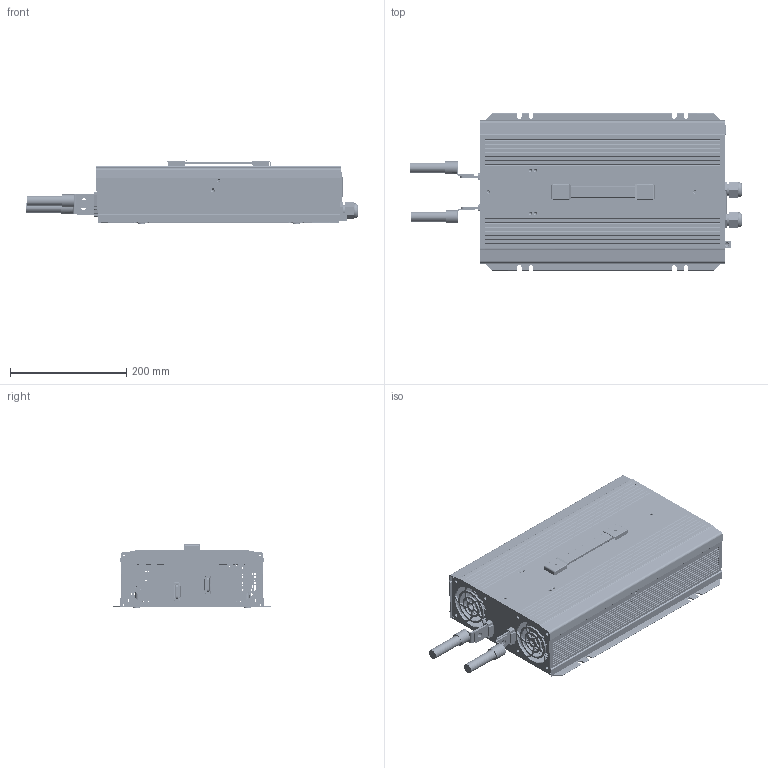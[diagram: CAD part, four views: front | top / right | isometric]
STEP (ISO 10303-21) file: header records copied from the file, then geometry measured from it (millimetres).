
FILE_DESCRIPTION(('Creo Elements/Direct Modeling STEP Export'),'2;1');
FILE_NAME('NTS-3200-CN.stp','2024-07-09T13:45:03',(''),(''),'PTC Creo Elements/Direct Modeling STEP processor for AP214 (Solid Model)','PTC Creo Elements/Direct Modeling 19.0E 27-Jun-2016 (C) Parametric Technology GmbH','');
FILE_SCHEMA(('AUTOMOTIVE_DESIGN { 1 0 10303 214 1 1 1 1 }'));
Length unit declared in the file: millimetre
Products named in the file (216): 中国插; 中国插.stp; 万国插片; P1_PRT; CU-1; 1HH1; 1GG1HS-SZ907; 1HH2NTU-3200; HS-3.1; HS-3; CU-5.1; CU-5; _S___S_O_S_JL; TERMINAL; 555_1; 77; SZ0681; SZ068; CASE_TOP_PRT; PCB-D; PCBA; 1HH2NTU-3200I; HS; HS.1; 1HH2NTU-3200J; 1GG1HS-SZ908.1; 1GG1HS-SZ908; PCBB; 1xx3NTS-3200-O; PCBE; PCBF; PCBG; SZ069; PCBH; CU-8; 111; PCBI; 174; CU-9.1; CU-9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
Assembly tree (266 placements, depth 3):
  中国插.stp
    中国插
      中国插
  NTS-3200-CN.stp
    open_shell.1
      open_shell.1
    零件9
    零件8
    _S_4_X2_0192_X0__S__S_6_S___S_U
      _S_4_X2_0192_X0__S__S_6_S___S_U
    零件7
    _S_4_X2_0192_X0__S_
      _S_4_X2_0192_X0__S__S_6_S___S_U
    HS-2
      HS-2
    零件6
    1GG4CU-SZ075A
      1GG4CU-SZ075A
    TO220.9
      TO220.9
    TO220.8
      TO220.9
    TO220.7
      TO220.9
    TO220.6
      TO220.9
    零件5
      零件5
    TO220.5
      TO220.9
    TO220.4
      TO220.9
    TO220.3
      TO220.9
    TO220.21
      TO220.9
    TO220.20
      TO220.9
    1GG1HS-SZ163-1
      1GG1HS-SZ163-1
    零件5.1
    TO220.2
      TO220.9
    TO220.19
      TO220.9
    TO220.18
      TO220.9
    TO220.17
      TO220.9
    guwei1.1
      guwei1.1
    TO220.16
      TO220.9
    TO220.15
      TO220.9
    TO220.14
      TO220.9
    TO220.13
      TO220.9
    零件4
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Bounding box: 570.16 x 270 x 108.65 mm (x, y, z)
Volume: 2412450.8 mm3; surface area: 2031273.9 mm2
Topology: 141 solids, 144 shells, 6989 faces, 18889 edges, 12466 vertices
Faces by surface type: plane 4288, cylinder 2327, cone 231, torus 122, bspline 16, sphere 4, extrusion 1
Entity records: 165071 total; most frequent: CARTESIAN_POINT 31363, ORIENTED_EDGE 27465, DIRECTION 25678, EDGE_CURVE 13735, VECTOR 9864, LINE 9863, VERTEX_POINT 9038, AXIS2_PLACEMENT_3D 7907
